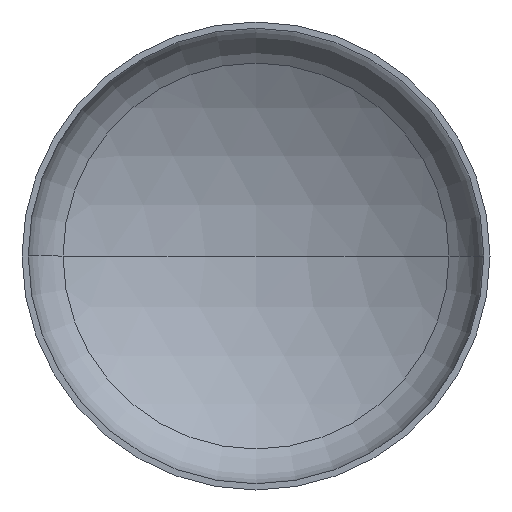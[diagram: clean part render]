
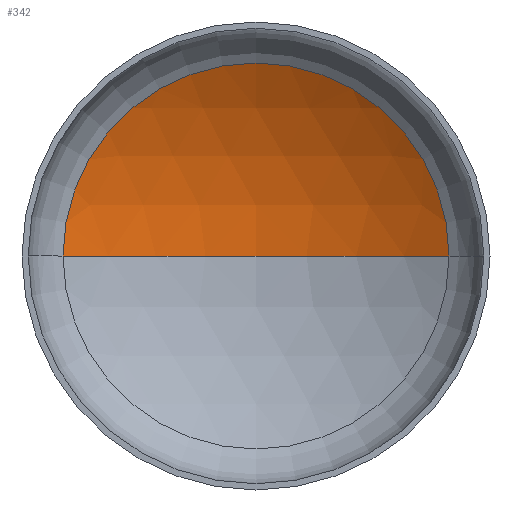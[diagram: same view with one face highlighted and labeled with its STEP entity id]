
A CAD part, front view. The second image highlights one B-rep face of the part: STEP entity #342.
In plain terms, the highlighted spherical face has radius 480 mm.
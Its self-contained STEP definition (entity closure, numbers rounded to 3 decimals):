
#17 = VERTEX_POINT ( 'NONE', #175 ) ;
#22 = AXIS2_PLACEMENT_3D ( 'NONE', #256, #28, #278 ) ;
#27 = AXIS2_PLACEMENT_3D ( 'NONE', #228, #328, #158 ) ;
#28 = DIRECTION ( 'NONE',  ( 0., 0., 1. ) ) ;
#29 = AXIS2_PLACEMENT_3D ( 'NONE', #329, #160, #360 ) ;
#34 = ORIENTED_EDGE ( 'NONE', *, *, #79, .F. ) ;
#65 = ORIENTED_EDGE ( 'NONE', *, *, #78, .T. ) ;
#72 = SPHERICAL_SURFACE ( 'NONE', #179, 480. ) ;
#73 = EDGE_LOOP ( 'NONE', ( #34, #65, #223 ) ) ;
#77 = EDGE_CURVE ( 'NONE', #117, #17, #286, .T. ) ;
#78 = EDGE_CURVE ( 'NONE', #121, #117, #132, .T. ) ;
#79 = EDGE_CURVE ( 'NONE', #121, #17, #122, .T. ) ;
#90 = DIRECTION ( 'NONE',  ( -1., 0., 0. ) ) ;
#92 = CARTESIAN_POINT ( 'NONE',  ( 0., -307.482, 0. ) ) ;
#117 = VERTEX_POINT ( 'NONE', #194 ) ;
#121 = VERTEX_POINT ( 'NONE', #323 ) ;
#122 = CIRCLE ( 'NONE', #22, 480. ) ;
#132 = CIRCLE ( 'NONE', #27, 480. ) ;
#158 = DIRECTION ( 'NONE',  ( -1., 0., 0. ) ) ;
#160 = DIRECTION ( 'NONE',  ( 0., -1., 0. ) ) ;
#175 = CARTESIAN_POINT ( 'NONE',  ( -247.423, 103.836, 0. ) ) ;
#179 = AXIS2_PLACEMENT_3D ( 'NONE', #92, #280, #90 ) ;
#194 = CARTESIAN_POINT ( 'NONE',  ( 247.423, 103.836, 0. ) ) ;
#223 = ORIENTED_EDGE ( 'NONE', *, *, #77, .T. ) ;
#228 = CARTESIAN_POINT ( 'NONE',  ( 0., -307.482, 0. ) ) ;
#250 = FACE_OUTER_BOUND ( 'NONE', #73, .T. ) ;
#256 = CARTESIAN_POINT ( 'NONE',  ( 0., -307.482, 0. ) ) ;
#278 = DIRECTION ( 'NONE',  ( 1., 0., 0. ) ) ;
#280 = DIRECTION ( 'NONE',  ( 0., 0., -1. ) ) ;
#286 = CIRCLE ( 'NONE', #29, 247.423 ) ;
#323 = CARTESIAN_POINT ( 'NONE',  ( 0., 172.518, 0. ) ) ;
#328 = DIRECTION ( 'NONE',  ( 0., 0., -1. ) ) ;
#329 = CARTESIAN_POINT ( 'NONE',  ( 0., 103.836, 0. ) ) ;
#342 = ADVANCED_FACE ( 'NONE', ( #250 ), #72, .F. ) ;
#360 = DIRECTION ( 'NONE',  ( 1., 0., 0. ) ) ;
